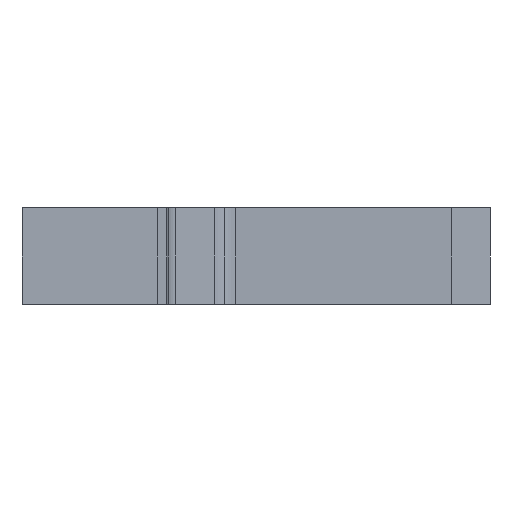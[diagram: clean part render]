
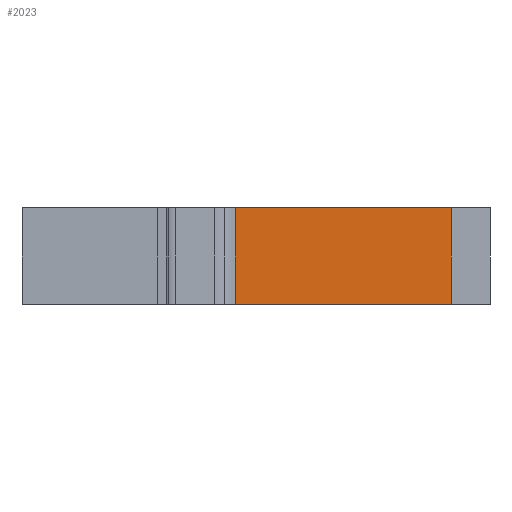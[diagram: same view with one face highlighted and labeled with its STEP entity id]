
A CAD part, left-side view. The second image highlights one B-rep face of the part: STEP entity #2023.
In plain terms, the highlighted planar face has unit normal (-1, 0, 0).
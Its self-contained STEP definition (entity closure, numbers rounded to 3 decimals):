
#59=CARTESIAN_POINT('',(-32.,28.808,-20.0));
#60=VERTEX_POINT('',#59);
#68=CARTESIAN_POINT('',(-32.,28.808,0.0));
#69=VERTEX_POINT('',#68);
#70=CARTESIAN_POINT('',(-32.,28.808,-20.0));
#71=DIRECTION('',(0.0,0.0,1.0));
#72=VECTOR('',#71,20.0);
#73=LINE('',#70,#72);
#74=EDGE_CURVE('',#60,#69,#73,.T.);
#1976=CARTESIAN_POINT('',(-32.,-16.,0.0));
#1977=VERTEX_POINT('',#1976);
#1984=CARTESIAN_POINT('',(-32.,-16.,-20.0));
#1985=VERTEX_POINT('',#1984);
#1986=CARTESIAN_POINT('',(-32.,-16.,-20.0));
#1987=DIRECTION('',(0.0,0.0,1.0));
#1988=VECTOR('',#1987,20.0);
#1989=LINE('',#1986,#1988);
#1990=EDGE_CURVE('',#1985,#1977,#1989,.T.);
#2002=CARTESIAN_POINT('',(-32.,-16.,-20.0));
#2003=DIRECTION('',(-1.0,0.0,0.0));
#2004=DIRECTION('',(0.0,0.0,1.0));
#2005=AXIS2_PLACEMENT_3D('',#2002,#2003,#2004);
#2006=PLANE('',#2005);
#2007=CARTESIAN_POINT('',(-32.,-16.,0.0));
#2008=DIRECTION('',(0.0,1.0,0.0));
#2009=VECTOR('',#2008,44.808);
#2010=LINE('',#2007,#2009);
#2011=EDGE_CURVE('',#1977,#69,#2010,.T.);
#2012=ORIENTED_EDGE('',*,*,#2011,.T.);
#2013=ORIENTED_EDGE('',*,*,#74,.F.);
#2014=CARTESIAN_POINT('',(-32.,-16.,-20.0));
#2015=DIRECTION('',(0.0,1.0,0.0));
#2016=VECTOR('',#2015,44.808);
#2017=LINE('',#2014,#2016);
#2018=EDGE_CURVE('',#1985,#60,#2017,.T.);
#2019=ORIENTED_EDGE('',*,*,#2018,.F.);
#2020=ORIENTED_EDGE('',*,*,#1990,.T.);
#2021=EDGE_LOOP('',(#2012,#2013,#2019,#2020));
#2022=FACE_OUTER_BOUND('',#2021,.T.);
#2023=ADVANCED_FACE('',(#2022),#2006,.T.);
